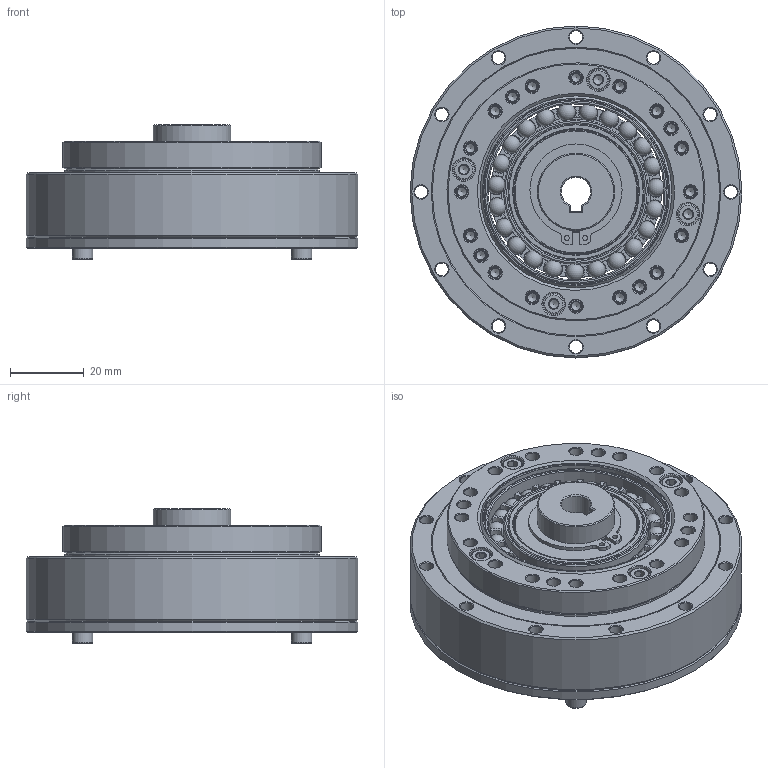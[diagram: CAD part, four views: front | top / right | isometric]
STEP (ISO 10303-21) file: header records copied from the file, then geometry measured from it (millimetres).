
FILE_DESCRIPTION(/* description */ (''),/* implementation_level */ '2;1');
FILE_NAME(/* name */ 'LHG-20-XX-U-II-φ8.stp',/* time_stamp */ '2023-07-08T16:12:50+08:00',/* author */ (''),/* organization */ (''),/* preprocessor_version */ 'ST-DEVELOPER v16.7',/* originating_system */ 'SIEMENS PLM Software NX 12.0',/* authorisation */ '');
FILE_SCHEMA (('AUTOMOTIVE_DESIGN { 1 0 10303 214 3 1 1 1 }'));
Length unit declared in the file: millimetre
Products named in the file (17): EB375007-20KC-46; EB375007-20KE-01; TC-69x78x5; O-75x1.5; O-55x0.5; GB-T70.1-2000,M3x8; GB-T70.1-2000,M3x10; 轴用弹性挡圈φ21; 铜垫圈21.5x33.5x1; CSG-20-00-02; CSG-20-00-01-K8; CS-20-XX-03; 柔轮LHT-20; 刚轮LHT-20; EB375007-20KE; 交叉轴承LHT-20; LHG-20-XX-U-II-φ8
Assembly tree (22 placements, depth 3):
  LHG-20-XX-U-II-φ8
    交叉轴承LHT-20
      TC-69x78x5
    刚轮LHT-20
    柔轮LHT-20
    EB375007-20KE
      EB375007-20KE-01
      EB375007-20KC-46
    CS-20-XX-03
    CSG-20-00-01-K8
    CSG-20-00-02
    铜垫圈21.5x33.5x1
    轴用弹性挡圈φ21
    GB-T70.1-2000,M3x10  x4
    GB-T70.1-2000,M3x8  x4
    O-55x0.5
    O-75x1.5
Bounding box: 90 x 90 x 36.5 mm (x, y, z)
Volume: 102103.1 mm3; surface area: 84879.3 mm2
Topology: 46 solids, 46 shells, 952 faces, 2286 edges, 1407 vertices
Faces by surface type: plane 320, cone 288, cylinder 229, torus 90, sphere 23, revolution 2
Full cylindrical faces by diameter (mm): 1.4 x2, 2.5 x32, 2.874 x8, 3.5 x56, 5.5 x8, 6 x4, 20 x1, 21 x2, 21.5 x1, 22 x2, 33.5 x1, 34 x1, 35 x2, 37 x2, 39.25 x2, 40.64 x1, 44 x1, 46.36 x1, 47.79 x2, 50 x2, 50.71 x1, 51.865 x1, 52.063 x1, 55 x2, 56.4 x1, 63.3 x1, 68.6 x1, 69 x2, 70 x2, 70.1 x2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
Entity records: 22412 total; most frequent: CARTESIAN_POINT 4985, DIRECTION 3708, ORIENTED_EDGE 2766, AXIS2_PLACEMENT_3D 1658, EDGE_CURVE 1383, EDGE_LOOP 1320, VERTEX_POINT 1122, FACE_BOUND 1057
